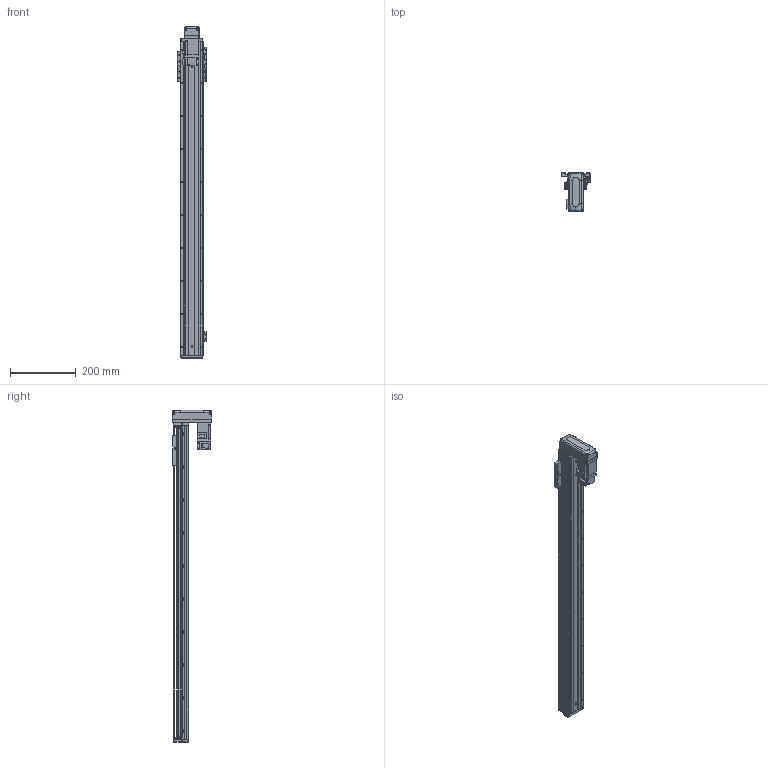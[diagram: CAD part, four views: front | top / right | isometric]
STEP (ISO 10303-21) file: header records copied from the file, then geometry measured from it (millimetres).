
FILE_DESCRIPTION (( 'STEP AP203' ), '1' );
FILE_NAME ('KTHAL60-800-BM-M10-C4L.step', '2022-03-19T08:42:23', ( '微软用户' ), ( '微软中国' ), 'SwSTEP 2.0', 'SolidWorks 2020', '' );
FILE_SCHEMA (( 'CONFIG_CONTROL_DESIGN' ));
Length unit declared in the file: millimetre
Products named in the file (18): GB¨uT 70.2-M3¡Á5_M3¡Á6; GBT 70.1-M3℅6; GBT 70.3-M3℅6; CTHA60-016; EE_SX911P_R; HG-KR13（三菱）; KTHA60-001_950; CTHA60-017; CTHA60-015-2_CTHA60-015-2; KTHLA60-002; CTHA60-021; CTHA60-033; KTHA60-004; GBT 70.1-M4×16; GBT 70.1-M3×15; KTHA60-005; GBT77-2000M3-3; KTHAL60-800-BM-M10-C4L
Assembly tree (51 placements, depth 2):
  KTHAL60-800-BM-M10-C4L
    KTHA60-001_950
    KTHLA60-002
    KTHA60-004
    KTHA60-005
    GB¨uT 70.2-M3¡Á5_M3¡Á6  x5
    GBT 70.3-M3℅6  x4
    EE_SX911P_R  x3
    CTHA60-017  x3
    CTHA60-021  x2
    GBT 70.1-M4×16  x10
    GBT77-2000M3-3  x6
    GBT 70.1-M3℅6  x6
    CTHA60-016
    HG-KR13（三菱）
    CTHA60-015-2_CTHA60-015-2
    CTHA60-033
    GBT 70.1-M3×15  x4
Bounding box: 87.82 x 120 x 1007 mm (x, y, z)
Volume: 2026110.7 mm3; surface area: 501113.3 mm2
Topology: 54 solids, 54 shells, 2355 faces, 5611 edges, 3449 vertices
Faces by surface type: plane 1348, cylinder 577, cone 292, torus 98, bspline 26, sphere 14
Entity records: 41931 total; most frequent: CARTESIAN_POINT 7896, DIRECTION 6573, ORIENTED_EDGE 6366, EDGE_CURVE 3183, AXIS2_PLACEMENT_3D 2193, VECTOR 2187, LINE 2187, VERTEX_POINT 1998
